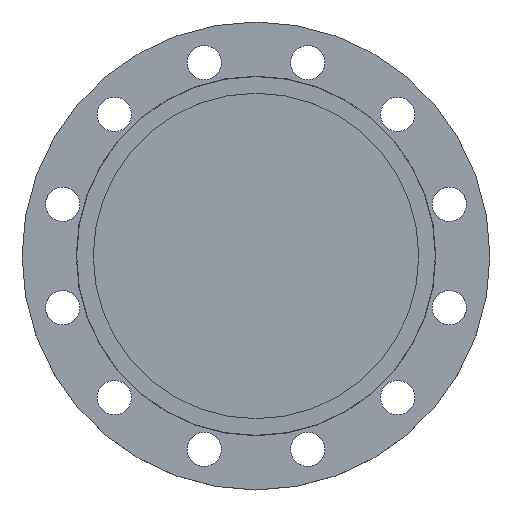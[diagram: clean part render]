
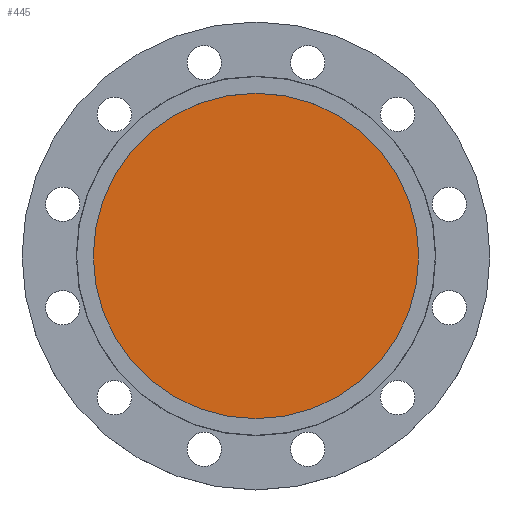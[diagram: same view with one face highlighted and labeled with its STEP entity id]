
A CAD part, top view. The second image highlights one B-rep face of the part: STEP entity #445.
In plain terms, the highlighted planar face has unit normal (0, 0, 1).
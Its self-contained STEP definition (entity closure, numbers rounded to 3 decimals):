
#205 = CARTESIAN_POINT ( 'NONE',  ( 156.5, 0., -4.5 ) ) ;
#211 = CIRCLE ( 'NONE', #215, 156.5 ) ;
#215 = AXIS2_PLACEMENT_3D ( 'NONE', #398, #397, #395 ) ;
#282 = CARTESIAN_POINT ( 'NONE',  ( -156.5, 0., -4.5 ) ) ;
#395 = DIRECTION ( 'NONE',  ( -1., 0., 0. ) ) ;
#397 = DIRECTION ( 'NONE',  ( 0., 0., -1. ) ) ;
#398 = CARTESIAN_POINT ( 'NONE',  ( 0., 0., -4.5 ) ) ;
#428 = CIRCLE ( 'NONE', #722, 156.5 ) ;
#440 = AXIS2_PLACEMENT_3D ( 'NONE', #604, #603, #601 ) ;
#445 = ADVANCED_FACE ( 'NONE', ( #606 ), #605, .T. ) ;
#519 = EDGE_CURVE ( 'NONE', #924, #1002, #428, .T. ) ;
#595 = DIRECTION ( 'NONE',  ( -1., 0., 0. ) ) ;
#597 = DIRECTION ( 'NONE',  ( 0., 0., -1. ) ) ;
#598 = CARTESIAN_POINT ( 'NONE',  ( 0., 0., -4.5 ) ) ;
#601 = DIRECTION ( 'NONE',  ( 1., 0., 0. ) ) ;
#603 = DIRECTION ( 'NONE',  ( 0., 0., 1. ) ) ;
#604 = CARTESIAN_POINT ( 'NONE',  ( 156.5, 0., -4.5 ) ) ;
#605 = PLANE ( 'NONE',  #440 ) ;
#606 = FACE_OUTER_BOUND ( 'NONE', #854, .T. ) ;
#722 = AXIS2_PLACEMENT_3D ( 'NONE', #598, #597, #595 ) ;
#830 = EDGE_CURVE ( 'NONE', #1002, #924, #211, .T. ) ;
#854 = EDGE_LOOP ( 'NONE', ( #1177, #1178 ) ) ;
#924 = VERTEX_POINT ( 'NONE', #282 ) ;
#1002 = VERTEX_POINT ( 'NONE', #205 ) ;
#1177 = ORIENTED_EDGE ( 'NONE', *, *, #519, .F. ) ;
#1178 = ORIENTED_EDGE ( 'NONE', *, *, #830, .F. ) ;
